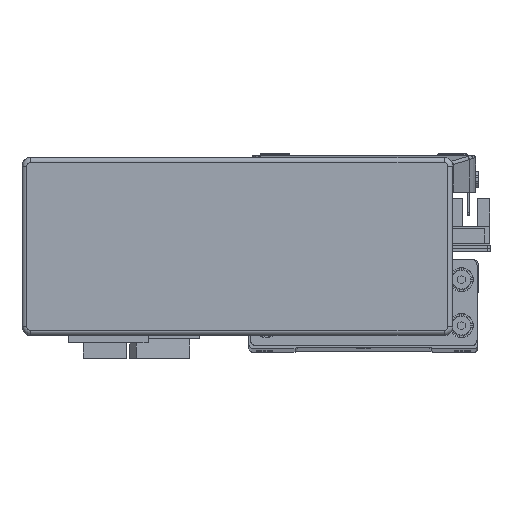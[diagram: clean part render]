
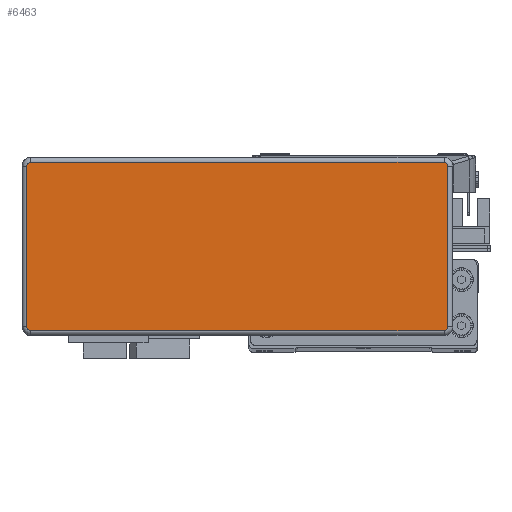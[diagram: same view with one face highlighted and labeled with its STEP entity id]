
A CAD part, top view. The second image highlights one B-rep face of the part: STEP entity #6463.
In plain terms, the highlighted planar face has unit normal (0, 0, 1) as drawn and (0, 0, -1) by its records, which use the part's own axes.
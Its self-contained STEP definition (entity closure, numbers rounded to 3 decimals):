
#6463 = ADVANCED_FACE ( 'NONE', ( #17645 ), #38593, .F. ) ;
#9825 = AXIS2_PLACEMENT_3D ( 'NONE', #28331, #28309, #28339 ) ;
#9829 = AXIS2_PLACEMENT_3D ( 'NONE', #18922, #18915, #18976 ) ;
#9841 = AXIS2_PLACEMENT_3D ( 'NONE', #18950, #18966, #18980 ) ;
#9878 = AXIS2_PLACEMENT_3D ( 'NONE', #18974, #18906, #18969 ) ;
#16009 = CIRCLE ( 'NONE', #9829, 1.3 ) ;
#16022 = LINE ( 'NONE', #18893, #16024 ) ;
#16024 = VECTOR ( 'NONE', #18898, 1000. ) ;
#16042 = CIRCLE ( 'NONE', #9841, 1.3 ) ;
#16065 = CIRCLE ( 'NONE', #9878, 1.3 ) ;
#16147 = LINE ( 'NONE', #19094, #16210 ) ;
#16173 = LINE ( 'NONE', #19051, #16208 ) ;
#16206 = VECTOR ( 'NONE', #28320, 1000. ) ;
#16208 = VECTOR ( 'NONE', #19036, 1000. ) ;
#16210 = VECTOR ( 'NONE', #19098, 1000. ) ;
#16251 = LINE ( 'NONE', #28347, #16206 ) ;
#16275 = CIRCLE ( 'NONE', #9825, 1.3 ) ;
#17172 = ORIENTED_EDGE ( 'NONE', *, *, #42951, .T. ) ;
#17185 = ORIENTED_EDGE ( 'NONE', *, *, #42928, .T. ) ;
#17190 = ORIENTED_EDGE ( 'NONE', *, *, #43037, .T. ) ;
#17204 = ORIENTED_EDGE ( 'NONE', *, *, #42919, .T. ) ;
#17209 = ORIENTED_EDGE ( 'NONE', *, *, #43029, .T. ) ;
#17210 = ORIENTED_EDGE ( 'NONE', *, *, #42924, .T. ) ;
#17241 = ORIENTED_EDGE ( 'NONE', *, *, #42961, .T. ) ;
#17246 = ORIENTED_EDGE ( 'NONE', *, *, #42906, .T. ) ;
#17645 = FACE_OUTER_BOUND ( 'NONE', #36037, .T. ) ;
#18893 = CARTESIAN_POINT ( 'NONE',  ( 71.995, 29.295, -32.2 ) ) ;
#18898 = DIRECTION ( 'NONE',  ( 1., 0., 0. ) ) ;
#18906 = DIRECTION ( 'NONE',  ( 0., 0., -1. ) ) ;
#18915 = DIRECTION ( 'NONE',  ( 0., 0., -1. ) ) ;
#18922 = CARTESIAN_POINT ( 'NONE',  ( 71.995, 27.995, -32.2 ) ) ;
#18950 = CARTESIAN_POINT ( 'NONE',  ( -71.995, 27.995, -32.2 ) ) ;
#18966 = DIRECTION ( 'NONE',  ( 0., 0., -1. ) ) ;
#18969 = DIRECTION ( 'NONE',  ( 1., 0., 0. ) ) ;
#18974 = CARTESIAN_POINT ( 'NONE',  ( -71.995, -27.995, -32.2 ) ) ;
#18976 = DIRECTION ( 'NONE',  ( 1., 0., 0. ) ) ;
#18980 = DIRECTION ( 'NONE',  ( 1., 0., 0. ) ) ;
#19036 = DIRECTION ( 'NONE',  ( 0., -1., 0. ) ) ;
#19051 = CARTESIAN_POINT ( 'NONE',  ( 73.295, -27.995, -32.2 ) ) ;
#19094 = CARTESIAN_POINT ( 'NONE',  ( -73.295, -27.995, -32.2 ) ) ;
#19098 = DIRECTION ( 'NONE',  ( 0., 1., 0. ) ) ;
#21363 = CARTESIAN_POINT ( 'NONE',  ( -71.995, -29.295, -32.2 ) ) ;
#21421 = CARTESIAN_POINT ( 'NONE',  ( 73.295, 27.995, -32.2 ) ) ;
#21426 = CARTESIAN_POINT ( 'NONE',  ( 71.995, -29.295, -32.2 ) ) ;
#21427 = CARTESIAN_POINT ( 'NONE',  ( -71.995, 29.295, -32.2 ) ) ;
#21443 = CARTESIAN_POINT ( 'NONE',  ( 73.295, -27.995, -32.2 ) ) ;
#21514 = CARTESIAN_POINT ( 'NONE',  ( 71.995, 29.295, -32.2 ) ) ;
#21538 = CARTESIAN_POINT ( 'NONE',  ( -73.295, 27.995, -32.2 ) ) ;
#21550 = CARTESIAN_POINT ( 'NONE',  ( -73.295, -27.995, -32.2 ) ) ;
#23863 = VERTEX_POINT ( 'NONE', #21421 ) ;
#23865 = VERTEX_POINT ( 'NONE', #21363 ) ;
#23893 = VERTEX_POINT ( 'NONE', #21443 ) ;
#23914 = VERTEX_POINT ( 'NONE', #21426 ) ;
#23922 = VERTEX_POINT ( 'NONE', #21427 ) ;
#23941 = VERTEX_POINT ( 'NONE', #21514 ) ;
#23956 = VERTEX_POINT ( 'NONE', #21538 ) ;
#23966 = VERTEX_POINT ( 'NONE', #21550 ) ;
#28309 = DIRECTION ( 'NONE',  ( 0., 0., -1. ) ) ;
#28320 = DIRECTION ( 'NONE',  ( -1., 0., 0. ) ) ;
#28331 = CARTESIAN_POINT ( 'NONE',  ( 71.995, -27.995, -32.2 ) ) ;
#28339 = DIRECTION ( 'NONE',  ( 1., 0., 0. ) ) ;
#28347 = CARTESIAN_POINT ( 'NONE',  ( 71.995, -29.295, -32.2 ) ) ;
#33743 = AXIS2_PLACEMENT_3D ( 'NONE', #38588, #38613, #38566 ) ;
#36037 = EDGE_LOOP ( 'NONE', ( #17172, #17190, #17209, #17204, #17241, #17210, #17246, #17185 ) ) ;
#38566 = DIRECTION ( 'NONE',  ( 1., 0., 0. ) ) ;
#38588 = CARTESIAN_POINT ( 'NONE',  ( 71.995, -27.995, -32.2 ) ) ;
#38593 = PLANE ( 'NONE',  #33743 ) ;
#38613 = DIRECTION ( 'NONE',  ( 0., 0., 1. ) ) ;
#42906 = EDGE_CURVE ( 'NONE', #23922, #23941, #16022, .T. ) ;
#42919 = EDGE_CURVE ( 'NONE', #23865, #23966, #16065, .T. ) ;
#42924 = EDGE_CURVE ( 'NONE', #23956, #23922, #16042, .T. ) ;
#42928 = EDGE_CURVE ( 'NONE', #23941, #23863, #16009, .T. ) ;
#42951 = EDGE_CURVE ( 'NONE', #23863, #23893, #16173, .T. ) ;
#42961 = EDGE_CURVE ( 'NONE', #23966, #23956, #16147, .T. ) ;
#43029 = EDGE_CURVE ( 'NONE', #23914, #23865, #16251, .T. ) ;
#43037 = EDGE_CURVE ( 'NONE', #23893, #23914, #16275, .T. ) ;
